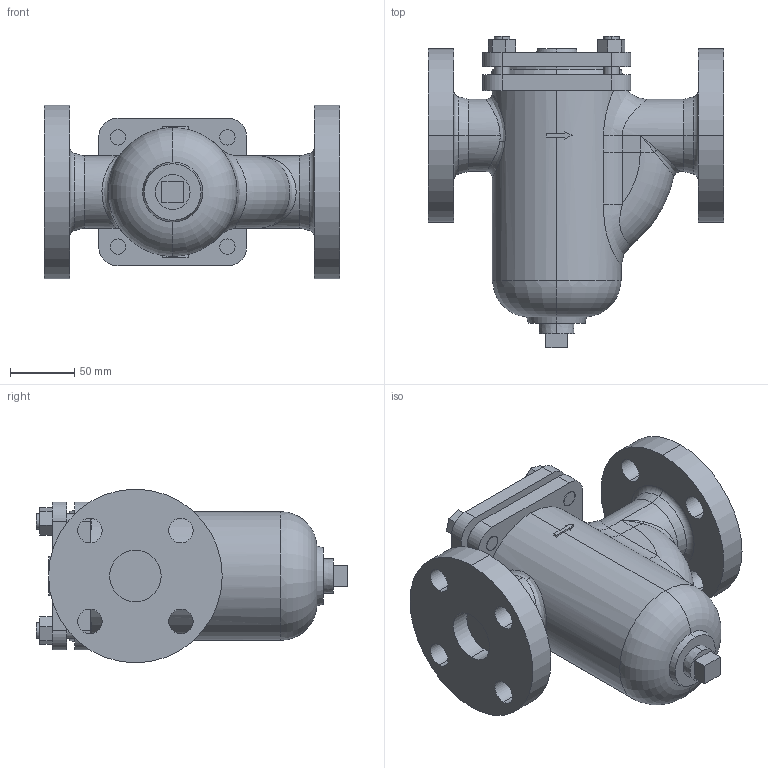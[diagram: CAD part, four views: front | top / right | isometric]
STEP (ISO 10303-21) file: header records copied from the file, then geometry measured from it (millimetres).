
FILE_DESCRIPTION (( 'STEP AP203' ), '1' );
FILE_NAME ('SU-20 32A.STEP', '2025-12-12T05:57:09', ( '' ), ( '' ), 'SwSTEP 2.0', 'SolidWorks 2024', '' );
FILE_SCHEMA (( 'CONFIG_CONTROL_DESIGN' ));
Length unit declared in the file: millimetre
Products named in the file (1): SU-20 32A
Bounding box: 230 x 242 x 135 mm (x, y, z)
Volume: 2550072.8 mm3; surface area: 196163 mm2
Topology: 1 solids, 1 shells, 181 faces, 439 edges, 283 vertices
Faces by surface type: plane 83, cylinder 70, cone 12, bspline 7, torus 7, sphere 2
Entity records: 7053 total; most frequent: CARTESIAN_POINT 2598, DIRECTION 946, ORIENTED_EDGE 874, EDGE_CURVE 437, AXIS2_PLACEMENT_3D 356, VERTEX_POINT 283, VECTOR 234, LINE 234
